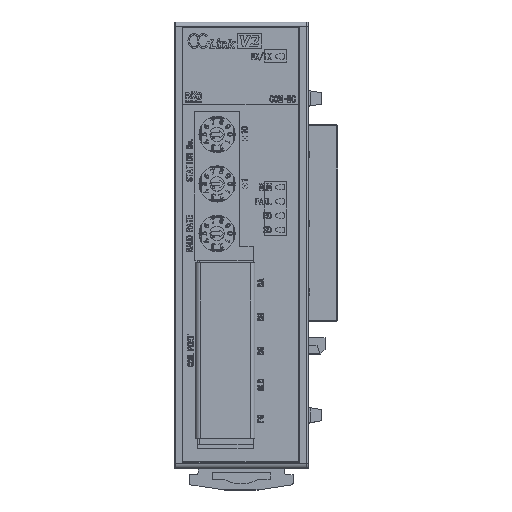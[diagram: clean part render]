
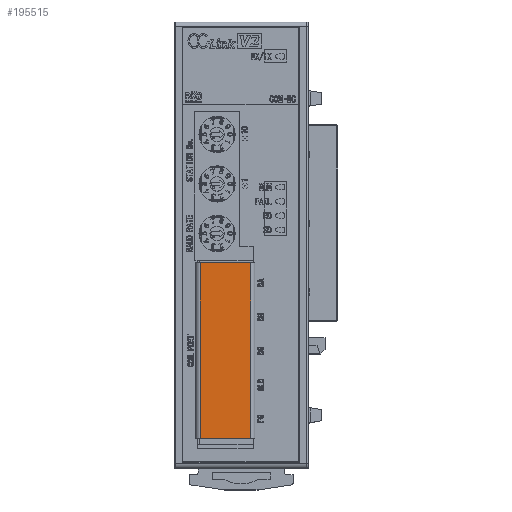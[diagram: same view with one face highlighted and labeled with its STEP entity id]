
A CAD part, top view. The second image highlights one B-rep face of the part: STEP entity #195515.
In plain terms, the highlighted planar face has unit normal (0, 0, 1).
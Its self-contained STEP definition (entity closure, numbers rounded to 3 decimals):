
#298 = LINE ( 'NONE', #17496, #86438 ) ;
#7550 = EDGE_CURVE ( 'NONE', #229741, #226748, #14994, .T. ) ;
#12145 = ORIENTED_EDGE ( 'NONE', *, *, #7550, .T. ) ;
#13215 = VECTOR ( 'NONE', #233786, 1000. ) ;
#14994 = LINE ( 'NONE', #96727, #13215 ) ;
#17233 = FACE_OUTER_BOUND ( 'NONE', #229712, .T. ) ;
#17496 = CARTESIAN_POINT ( 'NONE',  ( 164.49, -5.65, 3.1 ) ) ;
#18298 = EDGE_CURVE ( 'NONE', #49513, #91656, #78538, .T. ) ;
#23752 = DIRECTION ( 'NONE',  ( 1., 0., 0. ) ) ;
#28066 = CARTESIAN_POINT ( 'NONE',  ( -4.47, 5.65, 3.1 ) ) ;
#33923 = CARTESIAN_POINT ( 'NONE',  ( -4.47, -5.65, 3.1 ) ) ;
#37755 = DIRECTION ( 'NONE',  ( -1., 0., 0. ) ) ;
#49513 = VERTEX_POINT ( 'NONE', #158488 ) ;
#59297 = EDGE_CURVE ( 'NONE', #226748, #91656, #298, .T. ) ;
#68348 = ORIENTED_EDGE ( 'NONE', *, *, #59297, .T. ) ;
#78538 = LINE ( 'NONE', #158914, #142583 ) ;
#86438 = VECTOR ( 'NONE', #258618, 1000. ) ;
#91656 = VERTEX_POINT ( 'NONE', #223132 ) ;
#94584 = AXIS2_PLACEMENT_3D ( 'NONE', #218871, #179310, #23752 ) ;
#96727 = CARTESIAN_POINT ( 'NONE',  ( -4.47, 6.65, 3.1 ) ) ;
#133135 = VECTOR ( 'NONE', #37755, 1000. ) ;
#137862 = LINE ( 'NONE', #218290, #133135 ) ;
#142583 = VECTOR ( 'NONE', #239291, 1000. ) ;
#148734 = ORIENTED_EDGE ( 'NONE', *, *, #197282, .T. ) ;
#158249 = PLANE ( 'NONE',  #94584 ) ;
#158488 = CARTESIAN_POINT ( 'NONE',  ( 34.95, 5.65, 3.1 ) ) ;
#158914 = CARTESIAN_POINT ( 'NONE',  ( 34.95, 13.692, 3.1 ) ) ;
#179310 = DIRECTION ( 'NONE',  ( 0., 0., 1. ) ) ;
#187533 = ORIENTED_EDGE ( 'NONE', *, *, #18298, .F. ) ;
#195515 = ADVANCED_FACE ( 'NONE', ( #17233 ), #158249, .T. ) ;
#197282 = EDGE_CURVE ( 'NONE', #49513, #229741, #137862, .T. ) ;
#218290 = CARTESIAN_POINT ( 'NONE',  ( -4.47, 5.65, 3.1 ) ) ;
#218871 = CARTESIAN_POINT ( 'NONE',  ( 0., 0., 3.1 ) ) ;
#223132 = CARTESIAN_POINT ( 'NONE',  ( 34.95, -5.65, 3.1 ) ) ;
#226748 = VERTEX_POINT ( 'NONE', #33923 ) ;
#229712 = EDGE_LOOP ( 'NONE', ( #187533, #148734, #12145, #68348 ) ) ;
#229741 = VERTEX_POINT ( 'NONE', #28066 ) ;
#233786 = DIRECTION ( 'NONE',  ( 0., -1., 0. ) ) ;
#239291 = DIRECTION ( 'NONE',  ( 0., -1., 0. ) ) ;
#258618 = DIRECTION ( 'NONE',  ( 1., 0., 0. ) ) ;
